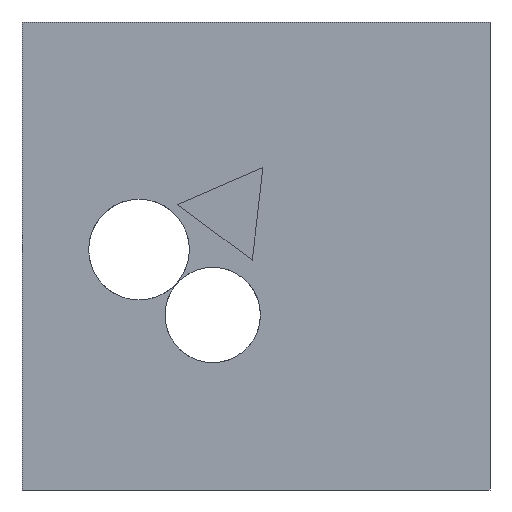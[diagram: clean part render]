
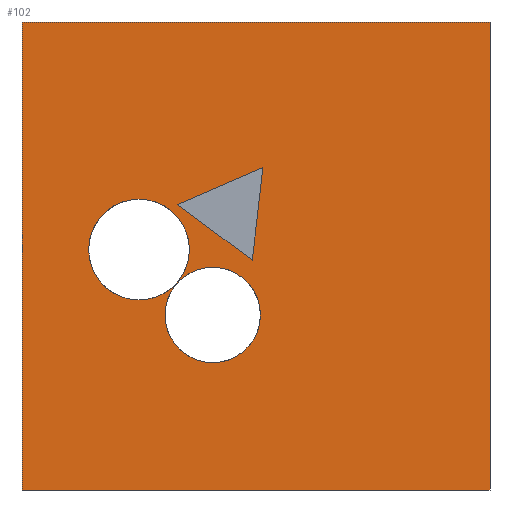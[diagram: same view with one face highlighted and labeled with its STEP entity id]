
A CAD part, front view. The second image highlights one B-rep face of the part: STEP entity #102.
In plain terms, the highlighted planar face has unit normal (0, -1, 0).
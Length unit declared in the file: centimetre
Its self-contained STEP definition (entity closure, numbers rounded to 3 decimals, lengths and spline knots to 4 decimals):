
#49 = CARTESIAN_POINT ( 'NONE',  ( 332.1686, 0., 609.6712 ) ) ;
#50 = LINE ( 'NONE', #395, #347 ) ;
#69 = CARTESIAN_POINT ( 'NONE',  ( 0., 0., 0. ) ) ;
#98 = DIRECTION ( 'NONE',  ( 0., 0., -1. ) ) ;
#102 = ADVANCED_FACE ( 'NONE', ( #1010, #588, #763, #795 ), #615, .F. ) ;
#115 = EDGE_LOOP ( 'NONE', ( #1091, #810, #1112, #334 ) ) ;
#129 = EDGE_CURVE ( 'NONE', #1080, #732, #141, .T. ) ;
#134 = VERTEX_POINT ( 'NONE', #69 ) ;
#141 = CIRCLE ( 'NONE', #797, 101.8854 ) ;
#142 = CARTESIAN_POINT ( 'NONE',  ( 407.5761, 0., 373.986 ) ) ;
#152 = VERTEX_POINT ( 'NONE', #1097 ) ;
#165 = CARTESIAN_POINT ( 'NONE',  ( 407.5761, 0., 475.8714 ) ) ;
#185 = VECTOR ( 'NONE', #533, 100. ) ;
#186 = CARTESIAN_POINT ( 'NONE',  ( 492.0856, 0., 491.1486 ) ) ;
#203 = CIRCLE ( 'NONE', #974, 107.6218 ) ;
#209 = VERTEX_POINT ( 'NONE', #432 ) ;
#237 = VERTEX_POINT ( 'NONE', #685 ) ;
#267 = DIRECTION ( 'NONE',  ( 0., 0., 1. ) ) ;
#271 = AXIS2_PLACEMENT_3D ( 'NONE', #358, #1048, #267 ) ;
#272 = CARTESIAN_POINT ( 'NONE',  ( 1000., 0., 0. ) ) ;
#287 = CARTESIAN_POINT ( 'NONE',  ( 1000., 0., 1000. ) ) ;
#291 = CIRCLE ( 'NONE', #851, 107.6218 ) ;
#294 = ORIENTED_EDGE ( 'NONE', *, *, #129, .F. ) ;
#314 = EDGE_LOOP ( 'NONE', ( #1019, #1109 ) ) ;
#334 = ORIENTED_EDGE ( 'NONE', *, *, #527, .T. ) ;
#347 = VECTOR ( 'NONE', #487, 100. ) ;
#351 = LINE ( 'NONE', #452, #825 ) ;
#358 = CARTESIAN_POINT ( 'NONE',  ( 0., 0., 1000. ) ) ;
#372 = EDGE_CURVE ( 'NONE', #643, #906, #203, .T. ) ;
#395 = CARTESIAN_POINT ( 'NONE',  ( 0., 0., 1000. ) ) ;
#405 = DIRECTION ( 'NONE',  ( 0.803, 0., -0.595 ) ) ;
#409 = CARTESIAN_POINT ( 'NONE',  ( 514.7706, 0., 688.9021 ) ) ;
#411 = CARTESIAN_POINT ( 'NONE',  ( 332.1686, 0., 609.6712 ) ) ;
#412 = EDGE_CURVE ( 'NONE', #209, #886, #716, .T. ) ;
#417 = LINE ( 'NONE', #186, #185 ) ;
#432 = CARTESIAN_POINT ( 'NONE',  ( 0., 0., 1000. ) ) ;
#434 = EDGE_CURVE ( 'NONE', #732, #1080, #956, .T. ) ;
#443 = CARTESIAN_POINT ( 'NONE',  ( 407.5761, 0., 373.986 ) ) ;
#452 = CARTESIAN_POINT ( 'NONE',  ( 1000., 0., 1000. ) ) ;
#454 = VECTOR ( 'NONE', #573, 100. ) ;
#470 = EDGE_CURVE ( 'NONE', #906, #643, #291, .T. ) ;
#487 = DIRECTION ( 'NONE',  ( 0., 0., -1. ) ) ;
#492 = EDGE_CURVE ( 'NONE', #134, #977, #912, .T. ) ;
#497 = ORIENTED_EDGE ( 'NONE', *, *, #551, .F. ) ;
#527 = EDGE_CURVE ( 'NONE', #209, #134, #50, .T. ) ;
#529 = VECTOR ( 'NONE', #405, 100. ) ;
#533 = DIRECTION ( 'NONE',  ( 0.114, 0., 0.993 ) ) ;
#536 = DIRECTION ( 'NONE',  ( 0., -1., 0. ) ) ;
#549 = EDGE_LOOP ( 'NONE', ( #294, #805 ) ) ;
#551 = EDGE_CURVE ( 'NONE', #152, #1095, #666, .T. ) ;
#566 = VECTOR ( 'NONE', #1026, 100. ) ;
#569 = DIRECTION ( 'NONE',  ( 0., 0., -1. ) ) ;
#573 = DIRECTION ( 'NONE',  ( 1., 0., 0. ) ) ;
#588 = FACE_BOUND ( 'NONE', #838, .T. ) ;
#615 = PLANE ( 'NONE',  #271 ) ;
#632 = DIRECTION ( 'NONE',  ( 1., 0., 0. ) ) ;
#643 = VERTEX_POINT ( 'NONE', #958 ) ;
#646 = CARTESIAN_POINT ( 'NONE',  ( 0., 0., 0. ) ) ;
#652 = CARTESIAN_POINT ( 'NONE',  ( 250.0442, 0., 513.6494 ) ) ;
#656 = EDGE_CURVE ( 'NONE', #237, #152, #417, .T. ) ;
#666 = LINE ( 'NONE', #409, #566 ) ;
#670 = AXIS2_PLACEMENT_3D ( 'NONE', #142, #893, #569 ) ;
#685 = CARTESIAN_POINT ( 'NONE',  ( 492.0856, 0., 491.1486 ) ) ;
#706 = EDGE_CURVE ( 'NONE', #1095, #237, #1104, .T. ) ;
#715 = DIRECTION ( 'NONE',  ( 0., 0., -1. ) ) ;
#716 = LINE ( 'NONE', #1058, #1005 ) ;
#732 = VERTEX_POINT ( 'NONE', #165 ) ;
#744 = DIRECTION ( 'NONE',  ( 0., 0., -1. ) ) ;
#763 = FACE_BOUND ( 'NONE', #314, .T. ) ;
#789 = DIRECTION ( 'NONE',  ( 0., 0., -1. ) ) ;
#791 = CARTESIAN_POINT ( 'NONE',  ( 250.0442, 0., 406.0276 ) ) ;
#795 = FACE_OUTER_BOUND ( 'NONE', #115, .T. ) ;
#797 = AXIS2_PLACEMENT_3D ( 'NONE', #443, #1108, #789 ) ;
#805 = ORIENTED_EDGE ( 'NONE', *, *, #434, .F. ) ;
#810 = ORIENTED_EDGE ( 'NONE', *, *, #898, .F. ) ;
#825 = VECTOR ( 'NONE', #715, 100. ) ;
#835 = ORIENTED_EDGE ( 'NONE', *, *, #656, .F. ) ;
#838 = EDGE_LOOP ( 'NONE', ( #835, #839, #497 ) ) ;
#839 = ORIENTED_EDGE ( 'NONE', *, *, #706, .F. ) ;
#851 = AXIS2_PLACEMENT_3D ( 'NONE', #652, #905, #744 ) ;
#886 = VERTEX_POINT ( 'NONE', #287 ) ;
#888 = CARTESIAN_POINT ( 'NONE',  ( 407.5761, 0., 272.1007 ) ) ;
#889 = CARTESIAN_POINT ( 'NONE',  ( 250.0442, 0., 513.6494 ) ) ;
#893 = DIRECTION ( 'NONE',  ( 0., -1., 0. ) ) ;
#898 = EDGE_CURVE ( 'NONE', #886, #977, #351, .T. ) ;
#905 = DIRECTION ( 'NONE',  ( 0., -1., 0. ) ) ;
#906 = VERTEX_POINT ( 'NONE', #791 ) ;
#912 = LINE ( 'NONE', #646, #454 ) ;
#956 = CIRCLE ( 'NONE', #670, 101.8854 ) ;
#958 = CARTESIAN_POINT ( 'NONE',  ( 250.0442, 0., 621.2712 ) ) ;
#974 = AXIS2_PLACEMENT_3D ( 'NONE', #889, #536, #98 ) ;
#977 = VERTEX_POINT ( 'NONE', #272 ) ;
#1005 = VECTOR ( 'NONE', #632, 100. ) ;
#1010 = FACE_BOUND ( 'NONE', #549, .T. ) ;
#1019 = ORIENTED_EDGE ( 'NONE', *, *, #470, .F. ) ;
#1026 = DIRECTION ( 'NONE',  ( -0.917, 0., -0.398 ) ) ;
#1048 = DIRECTION ( 'NONE',  ( 0., 1., 0. ) ) ;
#1058 = CARTESIAN_POINT ( 'NONE',  ( 0., 0., 1000. ) ) ;
#1080 = VERTEX_POINT ( 'NONE', #888 ) ;
#1091 = ORIENTED_EDGE ( 'NONE', *, *, #492, .T. ) ;
#1095 = VERTEX_POINT ( 'NONE', #49 ) ;
#1097 = CARTESIAN_POINT ( 'NONE',  ( 514.7706, 0., 688.9021 ) ) ;
#1104 = LINE ( 'NONE', #411, #529 ) ;
#1108 = DIRECTION ( 'NONE',  ( 0., -1., 0. ) ) ;
#1109 = ORIENTED_EDGE ( 'NONE', *, *, #372, .F. ) ;
#1112 = ORIENTED_EDGE ( 'NONE', *, *, #412, .F. ) ;
